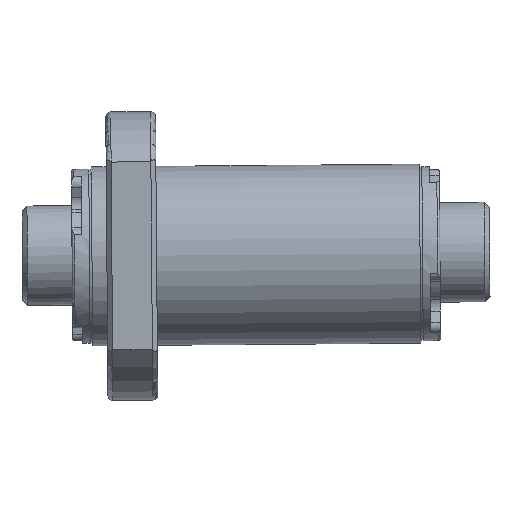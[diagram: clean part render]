
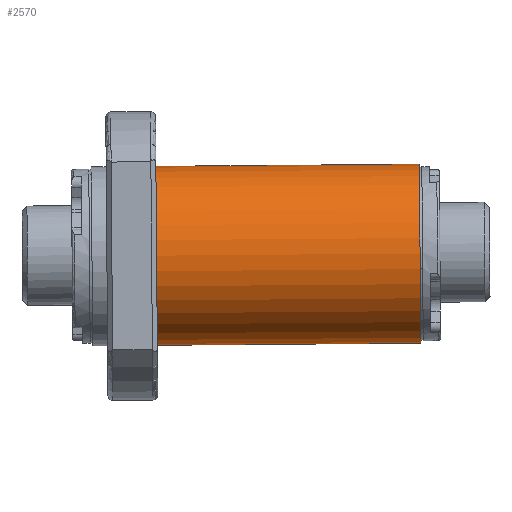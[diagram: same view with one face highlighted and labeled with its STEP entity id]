
A CAD part, top view. The second image highlights one B-rep face of the part: STEP entity #2570.
In plain terms, the highlighted cylindrical face has radius 18 mm (diameter 36 mm), a partial arc.
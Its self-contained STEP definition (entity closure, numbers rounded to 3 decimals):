
#314 = ORIENTED_EDGE ( 'NONE', *, *, #4100, .F. ) ;
#550 = CARTESIAN_POINT ( 'NONE',  ( 16.856, 17.919, 0. ) ) ;
#718 = VERTEX_POINT ( 'NONE', #6305 ) ;
#807 = VECTOR ( 'NONE', #3632, 1000. ) ;
#1033 = EDGE_CURVE ( 'NONE', #7547, #718, #2362, .T. ) ;
#1104 = ORIENTED_EDGE ( 'NONE', *, *, #5419, .T. ) ;
#1137 = DIRECTION ( 'NONE',  ( 1., 0.008, 0. ) ) ;
#1191 = CARTESIAN_POINT ( 'NONE',  ( 0.146, -18.216, 0. ) ) ;
#1482 = DIRECTION ( 'NONE',  ( 0., 0., 1. ) ) ;
#1728 = DIRECTION ( 'NONE',  ( 0.008, -1., 0. ) ) ;
#1787 = LINE ( 'NONE', #2337, #2824 ) ;
#1853 = CIRCLE ( 'NONE', #6975, 18. ) ;
#1960 = CARTESIAN_POINT ( 'NONE',  ( 17., -0.08, 0. ) ) ;
#2134 = ORIENTED_EDGE ( 'NONE', *, *, #1033, .F. ) ;
#2250 = DIRECTION ( 'NONE',  ( -1., -0.008, 0. ) ) ;
#2337 = CARTESIAN_POINT ( 'NONE',  ( -0.144, 17.782, 0. ) ) ;
#2362 = LINE ( 'NONE', #1191, #807 ) ;
#2570 = ADVANCED_FACE ( 'NONE', ( #5990 ), #5357, .T. ) ;
#2590 = VERTEX_POINT ( 'NONE', #550 ) ;
#2660 = CIRCLE ( 'NONE', #7362, 18. ) ;
#2824 = VECTOR ( 'NONE', #4749, 1000. ) ;
#2906 = CARTESIAN_POINT ( 'NONE',  ( 69.999, 0.346, 0. ) ) ;
#3121 = CARTESIAN_POINT ( 'NONE',  ( 69.854, 18.345, 0. ) ) ;
#3451 = CARTESIAN_POINT ( 'NONE',  ( 70.143, -17.654, 0. ) ) ;
#3632 = DIRECTION ( 'NONE',  ( -1., -0.008, 0. ) ) ;
#3802 = DIRECTION ( 'NONE',  ( -1., -0.008, 0. ) ) ;
#4100 = EDGE_CURVE ( 'NONE', #718, #2590, #1853, .T. ) ;
#4358 = EDGE_CURVE ( 'NONE', #6277, #7547, #2660, .T. ) ;
#4666 = AXIS2_PLACEMENT_3D ( 'NONE', #7122, #2250, #4704 ) ;
#4704 = DIRECTION ( 'NONE',  ( -0.008, 1., 0. ) ) ;
#4749 = DIRECTION ( 'NONE',  ( -1., -0.008, 0. ) ) ;
#5357 = CYLINDRICAL_SURFACE ( 'NONE', #4666, 18. ) ;
#5419 = EDGE_CURVE ( 'NONE', #6277, #2590, #1787, .T. ) ;
#5990 = FACE_OUTER_BOUND ( 'NONE', #5994, .T. ) ;
#5994 = EDGE_LOOP ( 'NONE', ( #2134, #6699, #1104, #314 ) ) ;
#6277 = VERTEX_POINT ( 'NONE', #3121 ) ;
#6305 = CARTESIAN_POINT ( 'NONE',  ( 17.145, -18.08, 0. ) ) ;
#6699 = ORIENTED_EDGE ( 'NONE', *, *, #4358, .F. ) ;
#6975 = AXIS2_PLACEMENT_3D ( 'NONE', #1960, #3802, #1482 ) ;
#7122 = CARTESIAN_POINT ( 'NONE',  ( 0.001, -0.217, 0. ) ) ;
#7362 = AXIS2_PLACEMENT_3D ( 'NONE', #2906, #1137, #1728 ) ;
#7547 = VERTEX_POINT ( 'NONE', #3451 ) ;
